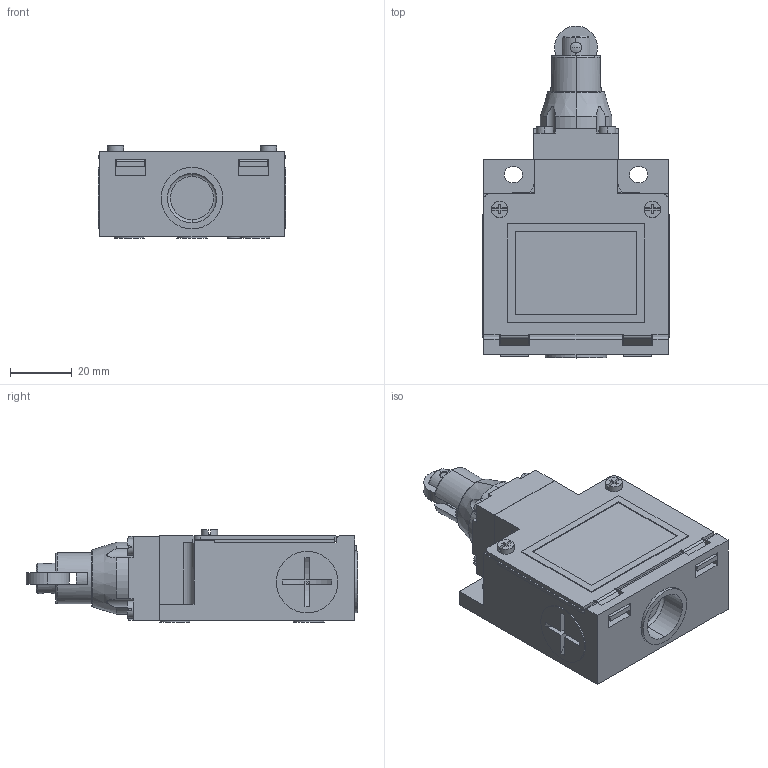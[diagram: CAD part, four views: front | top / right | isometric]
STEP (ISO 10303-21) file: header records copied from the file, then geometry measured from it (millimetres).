
FILE_DESCRIPTION (( 'STEP AP203' ), '1' );
FILE_NAME ('TZE02.STEP', '2018-02-07T13:38:54', ( '' ), ( '' ), 'SwSTEP 2.0', 'SolidWorks 2012', '' );
FILE_SCHEMA (( 'CONFIG_CONTROL_DESIGN' ));
Length unit declared in the file: millimetre
Products named in the file (1): TZE02
Bounding box: 61 x 107.8 x 30 mm (x, y, z)
Volume: 109185.2 mm3; surface area: 20767.5 mm2
Topology: 2 solids, 2 shells, 339 faces, 886 edges, 567 vertices
Faces by surface type: plane 238, cylinder 83, cone 9, torus 7, sphere 2
Entity records: 10603 total; most frequent: CARTESIAN_POINT 2143, ORIENTED_EDGE 1768, DIRECTION 1726, EDGE_CURVE 884, VECTOR 618, LINE 618, VERTEX_POINT 567, AXIS2_PLACEMENT_3D 554
